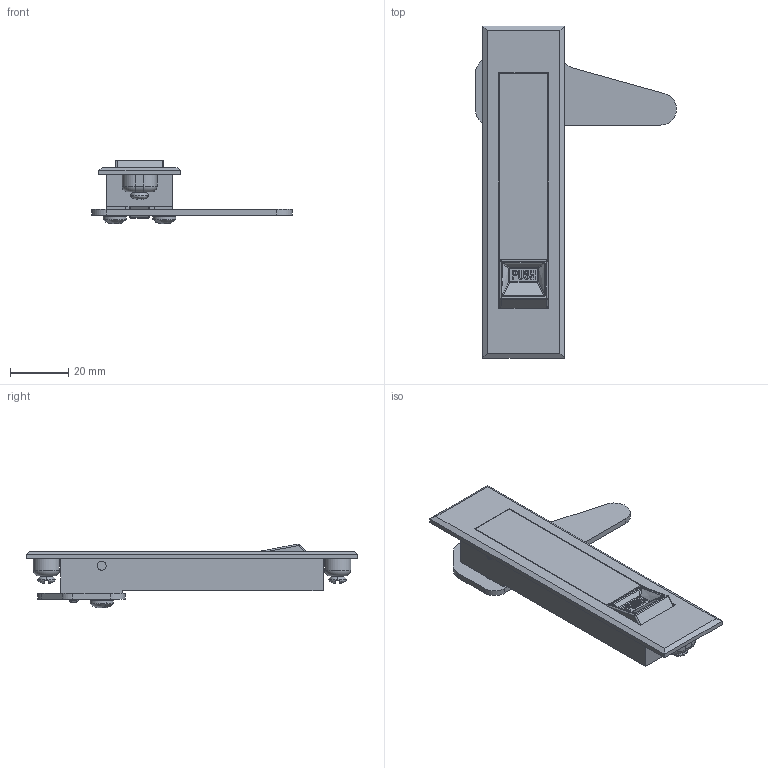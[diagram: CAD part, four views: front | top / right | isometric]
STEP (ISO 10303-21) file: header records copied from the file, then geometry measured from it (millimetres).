
FILE_DESCRIPTION (( 'STEP AP203' ), '1' );
FILE_NAME ('SK1-068.STEP', '2018-04-03T06:13:50', ( 'admin' ), ( 'Microsoft' ), 'SwSTEP 2.0', 'SolidWorks 2015', '' );
FILE_SCHEMA (( 'CONFIG_CONTROL_DESIGN' ));
Length unit declared in the file: millimetre
Products named in the file (6): SK1-068; SK1-068.2; SK1-068坶え; M4半圆头公称长度为3.5; M4埴芛鼠備酗僅6
Assembly tree (8 placements, depth 2):
  SK1-068
    SK1-068
    SK1-068坶え
    SK1-068.2  x2
    M4半圆头公称长度为3.5  x2
    M4埴芛鼠備酗僅6  x2
Bounding box: 68.99 x 114 x 21.93 mm (x, y, z)
Volume: 29036.4 mm3; surface area: 17190.6 mm2
Topology: 8 solids, 8 shells, 430 faces, 1099 edges, 692 vertices
Faces by surface type: plane 196, cylinder 142, bspline 54, cone 16, sphere 14, torus 8
Entity records: 13515 total; most frequent: CARTESIAN_POINT 5273, ORIENTED_EDGE 1652, DIRECTION 1435, EDGE_CURVE 826, VERTEX_POINT 526, VECTOR 479, LINE 479, AXIS2_PLACEMENT_3D 478
